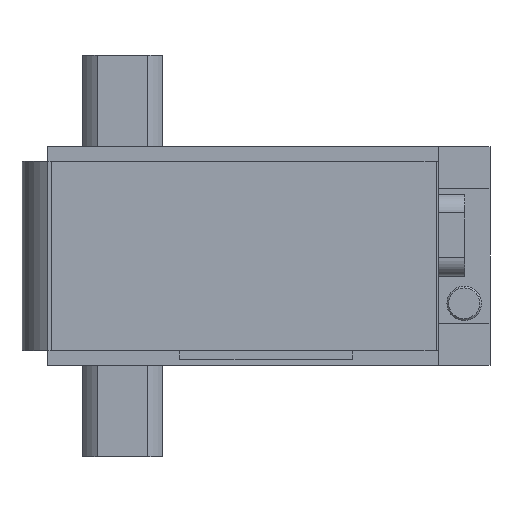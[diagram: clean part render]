
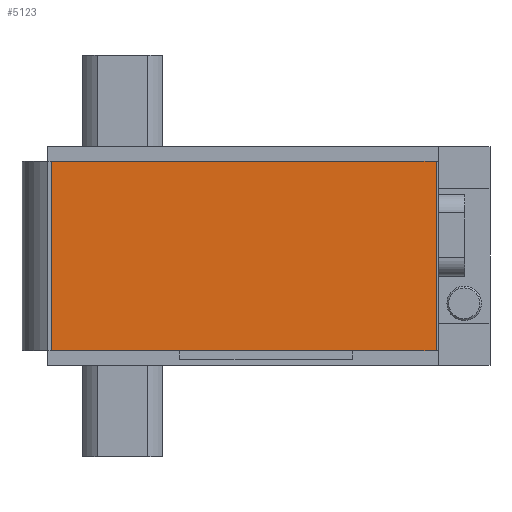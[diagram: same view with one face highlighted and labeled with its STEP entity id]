
A CAD part, front view. The second image highlights one B-rep face of the part: STEP entity #5123.
In plain terms, the highlighted planar face has unit normal (0, -1, 0).
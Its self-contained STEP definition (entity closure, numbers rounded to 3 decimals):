
#1705=DIRECTION('',(1.,0.,0.));
#1706=VECTOR('',#1705,134.);
#1707=CARTESIAN_POINT('',(-24.8,-360.,33.));
#1708=LINE('',#1707,#1706);
#1712=DIRECTION('',(0.,0.,-1.));
#1713=VECTOR('',#1712,66.);
#1714=CARTESIAN_POINT('',(109.2,-360.,33.));
#1715=LINE('',#1714,#1713);
#1719=DIRECTION('',(-1.,0.,0.));
#1720=VECTOR('',#1719,134.);
#1721=CARTESIAN_POINT('',(109.2,-360.,-33.));
#1722=LINE('',#1721,#1720);
#1726=DIRECTION('',(0.,0.,1.));
#1727=VECTOR('',#1726,66.);
#1728=CARTESIAN_POINT('',(-24.8,-360.,-33.));
#1729=LINE('',#1728,#1727);
#3834=CARTESIAN_POINT('',(-24.8,-360.,33.));
#3835=CARTESIAN_POINT('',(109.2,-360.,33.));
#3836=VERTEX_POINT('',#3834);
#3837=VERTEX_POINT('',#3835);
#3838=CARTESIAN_POINT('',(109.2,-360.,-33.));
#3839=VERTEX_POINT('',#3838);
#3840=CARTESIAN_POINT('',(-24.8,-360.,-33.));
#3841=VERTEX_POINT('',#3840);
#5110=CARTESIAN_POINT('',(42.2,-360.,0.));
#5111=DIRECTION('',(0.,1.,0.));
#5112=DIRECTION('',(1.,0.,0.));
#5113=AXIS2_PLACEMENT_3D('',#5110,#5111,#5112);
#5114=PLANE('',#5113);
#5116=ORIENTED_EDGE('',*,*,#5115,.T.);
#5117=ORIENTED_EDGE('',*,*,#4842,.T.);
#5118=ORIENTED_EDGE('',*,*,#4715,.T.);
#5120=ORIENTED_EDGE('',*,*,#5119,.T.);
#5121=EDGE_LOOP('',(#5116,#5117,#5118,#5120));
#5122=FACE_OUTER_BOUND('',#5121,.F.);
#4715=EDGE_CURVE('',#3839,#3841,#1722,.T.);
#4842=EDGE_CURVE('',#3837,#3839,#1715,.T.);
#5115=EDGE_CURVE('',#3836,#3837,#1708,.T.);
#5119=EDGE_CURVE('',#3841,#3836,#1729,.T.);
#5123=ADVANCED_FACE('',(#5122),#5114,.F.);
